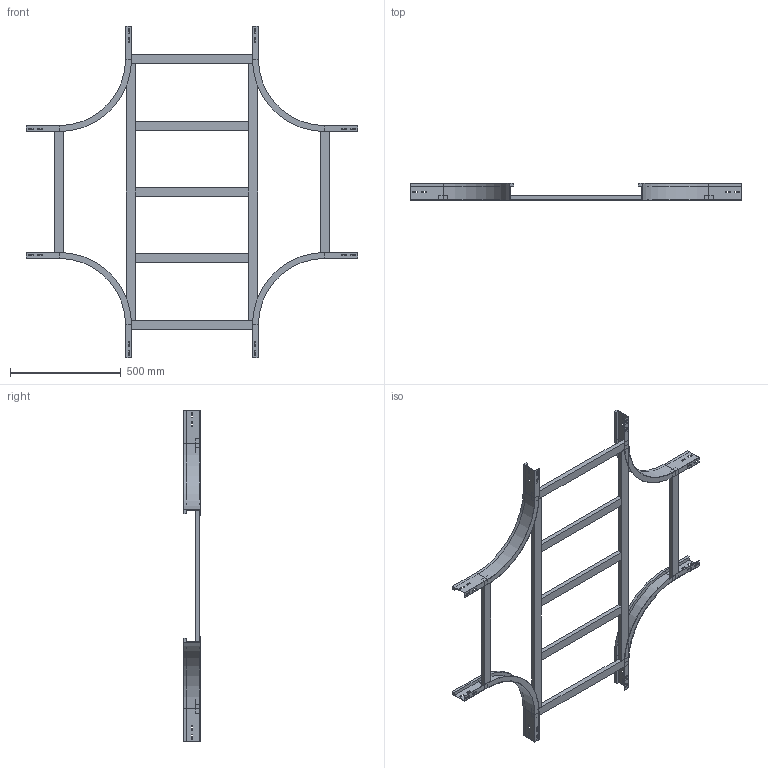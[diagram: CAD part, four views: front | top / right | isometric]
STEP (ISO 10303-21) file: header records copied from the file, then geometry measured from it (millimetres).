
FILE_DESCRIPTION (( 'STEP AP214' ), '1' );
FILE_NAME ('A2_17B3C600.step', '2025-02-21T15:58:42', ( '' ), ( '' ), 'SwSTEP 2.0', 'SolidWorks 2023', '' );
FILE_SCHEMA (( 'AUTOMOTIVE_DESIGN' ));
Length unit declared in the file: millimetre
Products named in the file (5): TRAVERSINO_INTERMEDIO_R300+600; TRAVERSINO_600; A2_17B3C600; A2_TRAVERSINO_LONG._R300+600; A2_LONGH.INTERNO 90°_H75_R300
Assembly tree (13 placements, depth 2):
  A2_17B3C600
    A2_LONGH.INTERNO 90°_H75_R300  x4
    TRAVERSINO_600  x4
    A2_TRAVERSINO_LONG._R300+600  x2
    TRAVERSINO_INTERMEDIO_R300+600  x3
Bounding box: 1500 x 75 x 1500 mm (x, y, z)
Volume: 6277888.1 mm3; surface area: 1504683.6 mm2
Topology: 13 solids, 13 shells, 286 faces, 716 edges, 456 vertices
Faces by surface type: plane 270, cylinder 16
Entity records: 2450 total; most frequent: CARTESIAN_POINT 400, DIRECTION 380, ORIENTED_EDGE 376, EDGE_CURVE 188, LINE 180, VECTOR 180, VERTEX_POINT 120, AXIS2_PLACEMENT_3D 100
